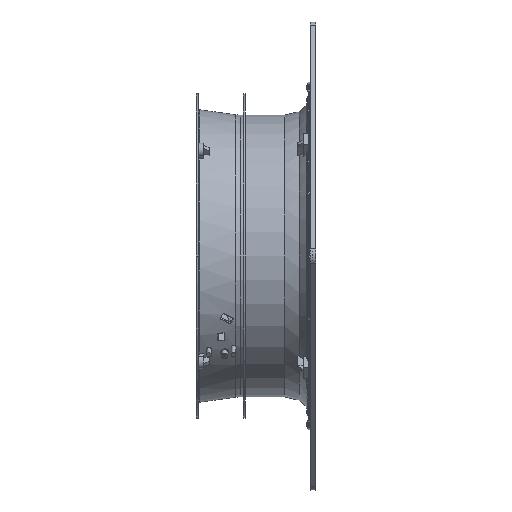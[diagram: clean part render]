
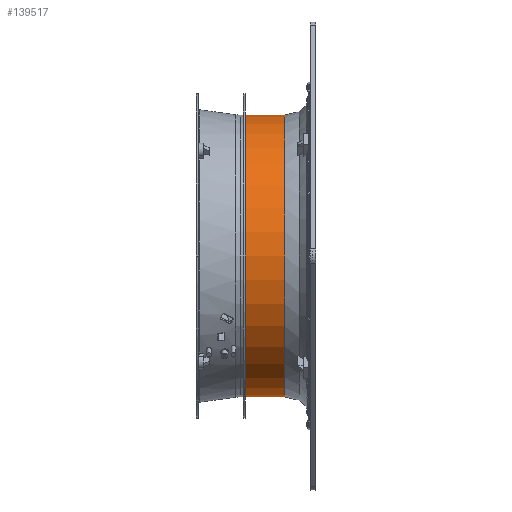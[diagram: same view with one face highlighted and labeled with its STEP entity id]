
A CAD part, front view. The second image highlights one B-rep face of the part: STEP entity #139517.
In plain terms, the highlighted cylindrical face has radius 405.5 mm (diameter 811 mm), a partial arc.
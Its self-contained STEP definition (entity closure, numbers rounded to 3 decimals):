
#4612=CARTESIAN_POINT('',(107.2,0.,0.));
#4613=DIRECTION('',(-1.,0.,0.));
#4614=DIRECTION('',(0.,0.,-1.));
#4615=AXIS2_PLACEMENT_3D('',#4612,#4613,#4614);
#4617=DIRECTION('',(1.,0.,0.));
#4618=VECTOR('',#4617,113.32);
#4619=CARTESIAN_POINT('',(107.2,0.,405.5));
#4620=LINE('',#4619,#4618);
#4621=DIRECTION('',(1.,0.,0.));
#4622=VECTOR('',#4621,113.32);
#4623=CARTESIAN_POINT('',(107.2,0.,-405.5));
#4624=LINE('',#4623,#4622);
#4639=CARTESIAN_POINT('',(220.52,0.,0.));
#4640=DIRECTION('',(1.,0.,0.));
#4641=DIRECTION('',(0.,0.,1.));
#4642=AXIS2_PLACEMENT_3D('',#4639,#4640,#4641);
#127543=CARTESIAN_POINT('',(107.2,0.,405.5));
#127544=VERTEX_POINT('',#127543);
#127545=CARTESIAN_POINT('',(107.2,0.,-405.5));
#127546=VERTEX_POINT('',#127545);
#128157=CARTESIAN_POINT('',(220.52,0.,405.5));
#128159=VERTEX_POINT('',#128157);
#128165=CARTESIAN_POINT('',(220.52,0.,-405.5));
#128167=VERTEX_POINT('',#128165);
#139505=CARTESIAN_POINT('',(310.4,0.,0.));
#139506=DIRECTION('',(-1.,0.,0.));
#139507=DIRECTION('',(0.,0.,-1.));
#139508=AXIS2_PLACEMENT_3D('',#139505,#139506,#139507);
#139509=CYLINDRICAL_SURFACE('',#139508,405.5);
#139510=ORIENTED_EDGE('',*,*,#139469,.T.);
#139511=ORIENTED_EDGE('',*,*,#139500,.T.);
#139513=ORIENTED_EDGE('',*,*,#139512,.T.);
#139514=ORIENTED_EDGE('',*,*,#139496,.F.);
#139515=EDGE_LOOP('',(#139510,#139511,#139513,#139514));
#139516=FACE_OUTER_BOUND('',#139515,.F.);
#4616=CIRCLE('',#4615,405.5);
#4643=CIRCLE('',#4642,405.5);
#139469=EDGE_CURVE('',#127546,#127544,#4616,.T.);
#139496=EDGE_CURVE('',#127546,#128167,#4624,.T.);
#139500=EDGE_CURVE('',#127544,#128159,#4620,.T.);
#139512=EDGE_CURVE('',#128159,#128167,#4643,.T.);
#139517=ADVANCED_FACE('',(#139516),#139509,.T.);
